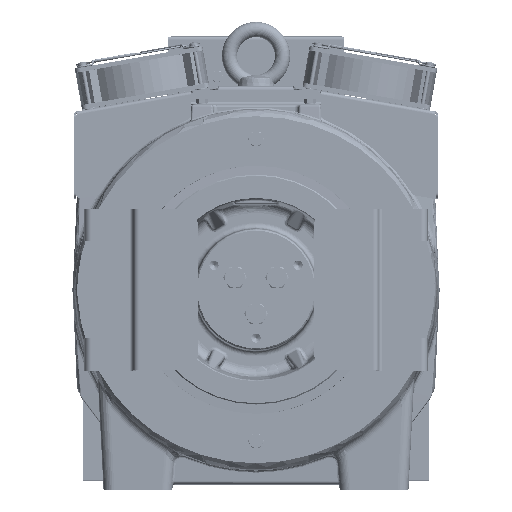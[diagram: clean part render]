
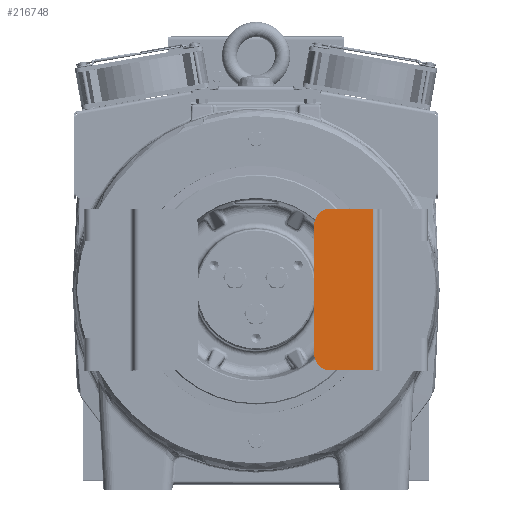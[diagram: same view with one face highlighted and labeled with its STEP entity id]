
A CAD part, top view. The second image highlights one B-rep face of the part: STEP entity #216748.
In plain terms, the highlighted planar face has unit normal (0, 0, 1) as drawn and (0, 1, 0) by its records, which use the part's own axes.
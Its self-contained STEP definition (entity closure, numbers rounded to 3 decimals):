
#215817=CARTESIAN_POINT('',(135.,65.,-45.));
#215818=DIRECTION('',(0.,-1.,0.));
#215819=DIRECTION('',(0.,0.,-1.));
#215820=AXIS2_PLACEMENT_3D('',#215817,#215818,#215819);
#215822=DIRECTION('',(0.,0.,-1.));
#215823=VECTOR('',#215822,39.);
#215824=CARTESIAN_POINT('',(0.,65.,-6.));
#215825=LINE('',#215824,#215823);
#215826=CARTESIAN_POINT('',(15.,65.,-45.));
#215827=DIRECTION('',(0.,-1.,0.));
#215828=DIRECTION('',(-1.,0.,0.));
#215829=AXIS2_PLACEMENT_3D('',#215826,#215827,#215828);
#215839=DIRECTION('',(-1.,0.,0.));
#215840=VECTOR('',#215839,120.);
#215841=CARTESIAN_POINT('',(135.,65.,-60.));
#215842=LINE('',#215841,#215840);
#215873=DIRECTION('',(1.,0.,0.));
#215874=VECTOR('',#215873,150.);
#215875=CARTESIAN_POINT('',(0.,65.,-6.));
#215876=LINE('',#215875,#215874);
#216033=DIRECTION('',(0.,0.,-1.));
#216034=VECTOR('',#216033,39.);
#216035=CARTESIAN_POINT('',(150.,65.,-6.));
#216036=LINE('',#216035,#216034);
#216537=CARTESIAN_POINT('',(135.,65.,-60.));
#216538=CARTESIAN_POINT('',(150.,65.,-45.));
#216539=VERTEX_POINT('',#216537);
#216540=VERTEX_POINT('',#216538);
#216541=CARTESIAN_POINT('',(150.,65.,-6.));
#216542=VERTEX_POINT('',#216541);
#216543=CARTESIAN_POINT('',(0.,65.,-6.));
#216544=VERTEX_POINT('',#216543);
#216545=CARTESIAN_POINT('',(0.,65.,-45.));
#216546=VERTEX_POINT('',#216545);
#216547=CARTESIAN_POINT('',(15.,65.,-60.));
#216548=VERTEX_POINT('',#216547);
#216729=CARTESIAN_POINT('',(0.,65.,-60.));
#216730=DIRECTION('',(0.,1.,0.));
#216731=DIRECTION('',(0.,0.,1.));
#216732=AXIS2_PLACEMENT_3D('',#216729,#216730,#216731);
#216733=PLANE('',#216732);
#216735=ORIENTED_EDGE('',*,*,#216734,.T.);
#216737=ORIENTED_EDGE('',*,*,#216736,.F.);
#216739=ORIENTED_EDGE('',*,*,#216738,.F.);
#216741=ORIENTED_EDGE('',*,*,#216740,.T.);
#216743=ORIENTED_EDGE('',*,*,#216742,.T.);
#216745=ORIENTED_EDGE('',*,*,#216744,.F.);
#216746=EDGE_LOOP('',(#216735,#216737,#216739,#216741,#216743,#216745));
#216747=FACE_OUTER_BOUND('',#216746,.F.);
#216748=ADVANCED_FACE('',(#216747),#216733,.T.);
#215821=CIRCLE('',#215820,15.);
#215830=CIRCLE('',#215829,15.);
#216734=EDGE_CURVE('',#216539,#216540,#215821,.T.);
#216736=EDGE_CURVE('',#216542,#216540,#216036,.T.);
#216738=EDGE_CURVE('',#216544,#216542,#215876,.T.);
#216740=EDGE_CURVE('',#216544,#216546,#215825,.T.);
#216742=EDGE_CURVE('',#216546,#216548,#215830,.T.);
#216744=EDGE_CURVE('',#216539,#216548,#215842,.T.);
